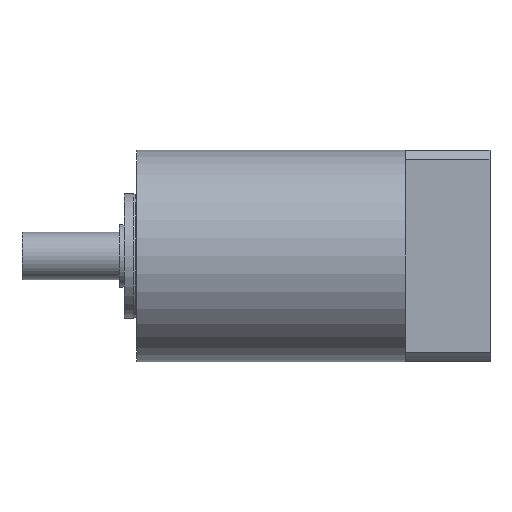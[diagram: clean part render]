
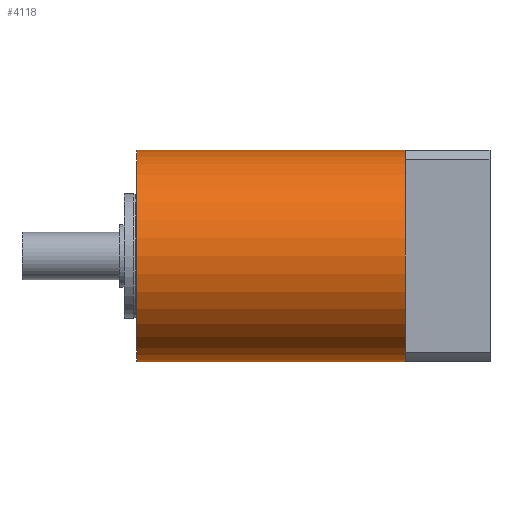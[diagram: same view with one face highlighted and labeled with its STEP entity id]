
A CAD part, front view. The second image highlights one B-rep face of the part: STEP entity #4118.
In plain terms, the highlighted cylindrical face has radius 42.5 mm (diameter 85 mm), a partial arc.
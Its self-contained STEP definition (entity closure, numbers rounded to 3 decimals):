
#50 = DIRECTION ( 'NONE',  ( 1., 0., 0. ) ) ;
#63 = EDGE_LOOP ( 'NONE', ( #4695, #1297, #2771, #1486 ) ) ;
#118 = EDGE_CURVE ( 'NONE', #1097, #2415, #2233, .T. ) ;
#206 = VECTOR ( 'NONE', #50, 1000. ) ;
#753 = CARTESIAN_POINT ( 'NONE',  ( 0., 0., 42.5 ) ) ;
#820 = CARTESIAN_POINT ( 'NONE',  ( -108., 0., 0. ) ) ;
#1044 = DIRECTION ( 'NONE',  ( 1., 0., 0. ) ) ;
#1097 = VERTEX_POINT ( 'NONE', #5361 ) ;
#1297 = ORIENTED_EDGE ( 'NONE', *, *, #5268, .T. ) ;
#1322 = EDGE_CURVE ( 'NONE', #2415, #2193, #5566, .T. ) ;
#1486 = ORIENTED_EDGE ( 'NONE', *, *, #1322, .T. ) ;
#1632 = VERTEX_POINT ( 'NONE', #4623 ) ;
#1715 = CARTESIAN_POINT ( 'NONE',  ( -108., 0., -42.5 ) ) ;
#1956 = EDGE_CURVE ( 'NONE', #1632, #2193, #1957, .T. ) ;
#1957 = LINE ( 'NONE', #2817, #2974 ) ;
#2111 = CARTESIAN_POINT ( 'NONE',  ( 0., 0., 0. ) ) ;
#2126 = CARTESIAN_POINT ( 'NONE',  ( 0., 0., -42.5 ) ) ;
#2177 = AXIS2_PLACEMENT_3D ( 'NONE', #2111, #5393, #3375 ) ;
#2193 = VERTEX_POINT ( 'NONE', #753 ) ;
#2233 = LINE ( 'NONE', #1715, #206 ) ;
#2415 = VERTEX_POINT ( 'NONE', #2126 ) ;
#2771 = ORIENTED_EDGE ( 'NONE', *, *, #118, .T. ) ;
#2817 = CARTESIAN_POINT ( 'NONE',  ( -108., 0., 42.5 ) ) ;
#2974 = VECTOR ( 'NONE', #1044, 1000. ) ;
#3083 = FACE_OUTER_BOUND ( 'NONE', #63, .T. ) ;
#3375 = DIRECTION ( 'NONE',  ( 0., 0., -1. ) ) ;
#3823 = DIRECTION ( 'NONE',  ( 0., 0., -1. ) ) ;
#3892 = CYLINDRICAL_SURFACE ( 'NONE', #5386, 42.5 ) ;
#4118 = ADVANCED_FACE ( 'NONE', ( #3083 ), #3892, .T. ) ;
#4350 = CARTESIAN_POINT ( 'NONE',  ( -108., 0., 0. ) ) ;
#4446 = AXIS2_PLACEMENT_3D ( 'NONE', #4350, #5180, #3823 ) ;
#4623 = CARTESIAN_POINT ( 'NONE',  ( -108., 0., 42.5 ) ) ;
#4687 = DIRECTION ( 'NONE',  ( 0., 0., -1. ) ) ;
#4695 = ORIENTED_EDGE ( 'NONE', *, *, #1956, .F. ) ;
#5120 = CIRCLE ( 'NONE', #4446, 42.5 ) ;
#5180 = DIRECTION ( 'NONE',  ( 1., 0., 0. ) ) ;
#5181 = DIRECTION ( 'NONE',  ( 1., 0., 0. ) ) ;
#5268 = EDGE_CURVE ( 'NONE', #1632, #1097, #5120, .T. ) ;
#5361 = CARTESIAN_POINT ( 'NONE',  ( -108., 0., -42.5 ) ) ;
#5386 = AXIS2_PLACEMENT_3D ( 'NONE', #820, #5181, #4687 ) ;
#5393 = DIRECTION ( 'NONE',  ( -1., 0., 0. ) ) ;
#5566 = CIRCLE ( 'NONE', #2177, 42.5 ) ;
